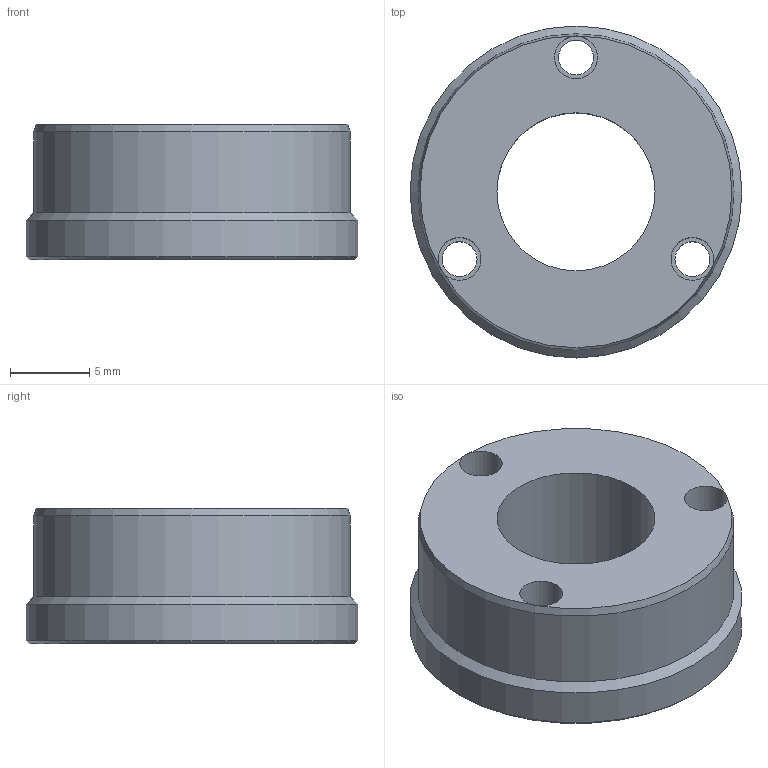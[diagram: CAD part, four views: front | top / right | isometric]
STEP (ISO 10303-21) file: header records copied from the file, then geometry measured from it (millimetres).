
FILE_DESCRIPTION(/* description */ (''),/* implementation_level */ '2;1');
FILE_NAME(/* name */ '22-7_flange_c_416.4652.04.stp',/* time_stamp */ '2016-09-19T14:59:56+02:00',/* author */ ('DR. FRITZ FAULHABER GmbH & Co. KG'),/* organization */ ('DR. FRITZ FAULHABER GmbH & Co. KG'),/* preprocessor_version */ 'ST-DEVELOPER v16',/* originating_system */ 'SIEMENS PLM Software NX 10.0',/* authorisation */ '');
FILE_SCHEMA (('AUTOMOTIVE_DESIGN { 1 0 10303 214 3 1 1 1 }'));
Length unit declared in the file: millimetre
Products named in the file (1): F0200011864_D
Bounding box: 21 x 21 x 8.6 mm (x, y, z)
Volume: 1992.6 mm3; surface area: 1493.2 mm2
Topology: 1 solids, 1 shells, 17 faces, 34 edges, 22 vertices
Faces by surface type: cylinder 9, plane 5, cone 3
Full cylindrical faces by diameter (mm): 2.2 x3, 2.7 x3, 10 x1, 20 x1, 21 x1
Entity records: 414 total; most frequent: DIRECTION 76, CARTESIAN_POINT 58, FACE_BOUND 40, EDGE_LOOP 40, ORIENTED_EDGE 40, AXIS2_PLACEMENT_3D 38, VERTEX_POINT 20, EDGE_CURVE 20
